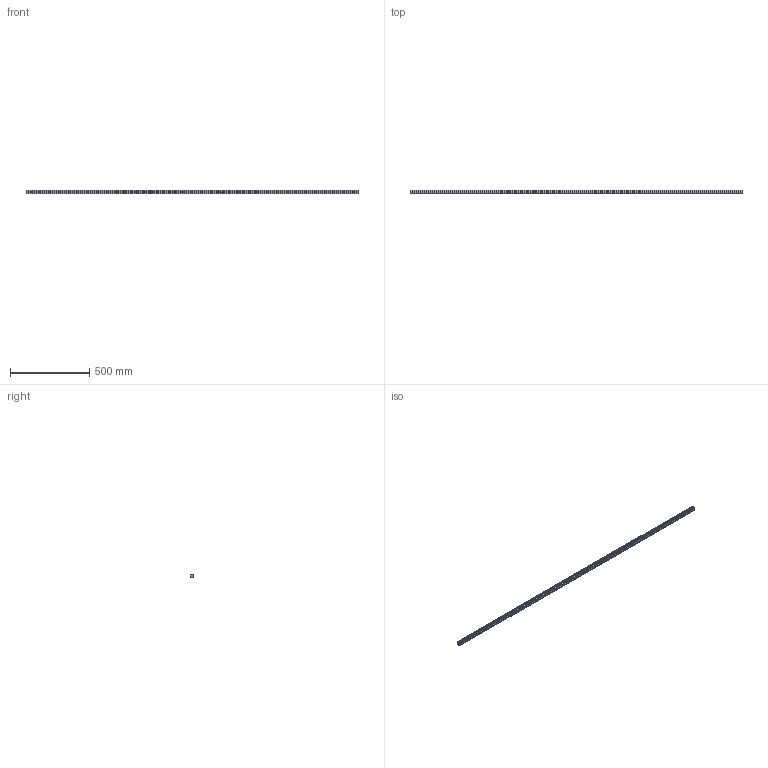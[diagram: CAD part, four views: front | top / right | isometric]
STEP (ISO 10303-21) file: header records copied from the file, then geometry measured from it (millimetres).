
FILE_DESCRIPTION (( 'STEP AP203' ), '1' );
FILE_NAME ('L1018.25R-2100.step', '2023-08-06T10:40:26', ( '' ), ( '' ), 'SwSTEP 2.0', 'SolidWorks 2019', '' );
FILE_SCHEMA (( 'CONFIG_CONTROL_DESIGN' ));
Length unit declared in the file: millimetre
Products named in the file (1): L1018.25R-2100
Bounding box: 2100 x 21.8 x 25 mm (x, y, z)
Volume: 873365 mm3; surface area: 209375.1 mm2
Topology: 1 solids, 1 shells, 344 faces, 781 edges, 439 vertices
Faces by surface type: cylinder 143, cone 140, plane 61
Entity records: 9188 total; most frequent: DIRECTION 1757, CARTESIAN_POINT 1495, ORIENTED_EDGE 1422, EDGE_CURVE 711, AXIS2_PLACEMENT_3D 701, VERTEX_POINT 439, EDGE_LOOP 414, CIRCLE 356
